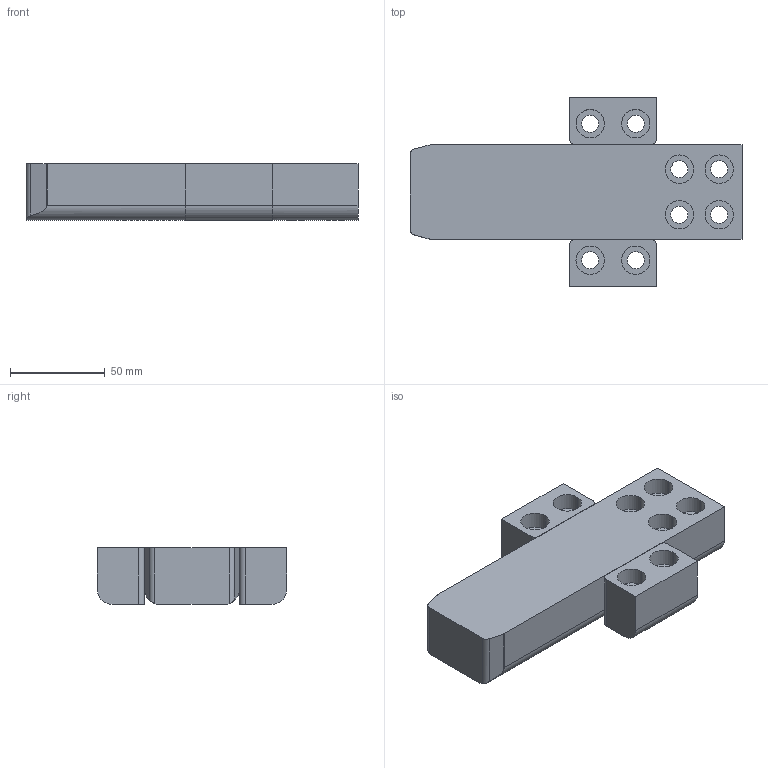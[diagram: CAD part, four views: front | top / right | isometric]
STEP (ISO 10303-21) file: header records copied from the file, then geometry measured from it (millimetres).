
FILE_DESCRIPTION (( 'STEP AP214' ), '1' );
FILE_NAME ('R0778_050x30-L175.STEP', '2021-02-25T21:55:46', ( '' ), ( '' ), 'SwSTEP 2.0', 'SolidWorks 2014', '' );
FILE_SCHEMA (( 'AUTOMOTIVE_DESIGN' ));
Length unit declared in the file: millimetre
Products named in the file (1): R0778_050x30-L175
Bounding box: 175 x 100 x 30 mm (x, y, z)
Volume: 300901.1 mm3; surface area: 49230.5 mm2
Topology: 3 solids, 3 shells, 72 faces, 174 edges, 116 vertices
Faces by surface type: cylinder 44, plane 28
Entity records: 2246 total; most frequent: DIRECTION 398, CARTESIAN_POINT 397, ORIENTED_EDGE 348, EDGE_CURVE 174, AXIS2_PLACEMENT_3D 157, VERTEX_POINT 116, EDGE_LOOP 96, CIRCLE 84
